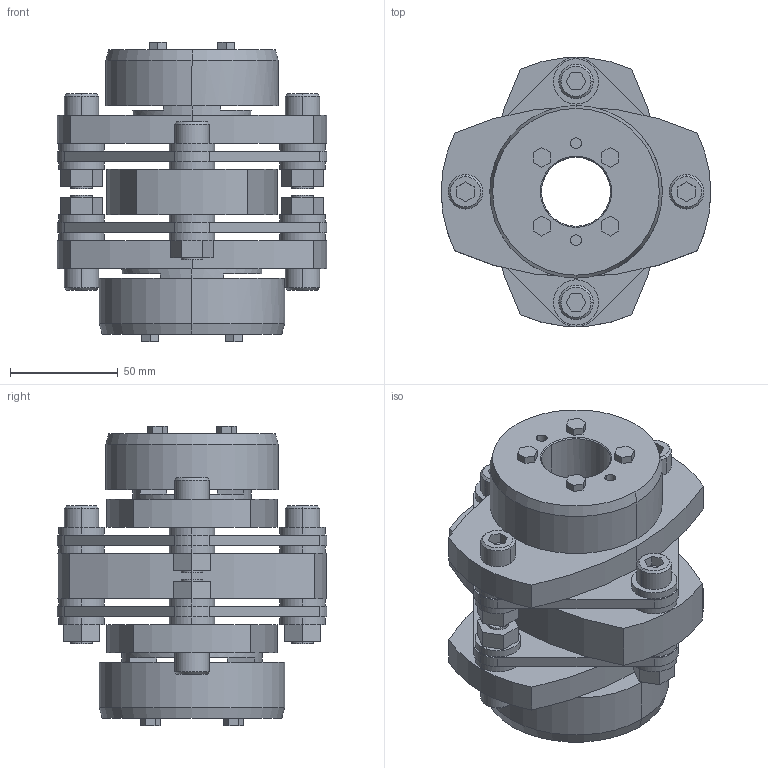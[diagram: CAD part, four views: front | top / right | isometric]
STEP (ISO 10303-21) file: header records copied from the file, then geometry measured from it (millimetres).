
FILE_DESCRIPTION((''),'2;1');
FILE_NAME('LCD-125T7-32×40.stp','2011-09-07T10:11:37',(''),(''),'AutoCAD STEP 2000i','AutoCAD 2000i',', , ');
FILE_SCHEMA(('CONFIG_CONTROL_DESIGN'));
Length unit declared in the file: millimetre
Products named in the file (8): LCD-125T7-32×40; 忣兜1; LC125T7-T040; LC125T7-T038; LC125T7-T035; LC125T7-T032-1; LC125T7-T032; LCD125-ITA
Assembly tree (7 placements, depth 2):
  LCD-125T7-32×40
    忣兜1
    LC125T7-T040
    LC125T7-T038
    LC125T7-T035
    LC125T7-T032-1
    LC125T7-T032
    LCD125-ITA
Bounding box: 125 x 124.91 x 139 mm (x, y, z)
Volume: 675428.9 mm3; surface area: 139198.9 mm2
Topology: 1 solids, 1 shells, 334 faces, 818 edges, 538 vertices
Faces by surface type: plane 190, cylinder 120, cone 24
Entity records: 10113 total; most frequent: DIRECTION 1784, CARTESIAN_POINT 1698, ORIENTED_EDGE 1636, EDGE_CURVE 818, AXIS2_PLACEMENT_3D 624, VERTEX_POINT 538, VECTOR 536, LINE 536
